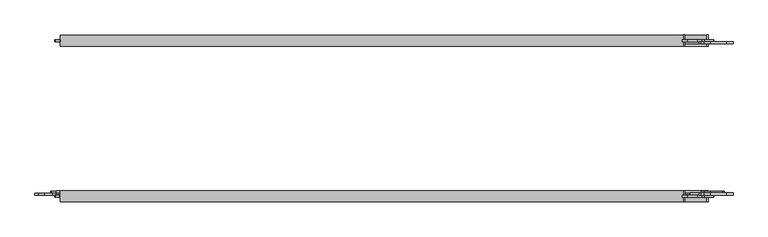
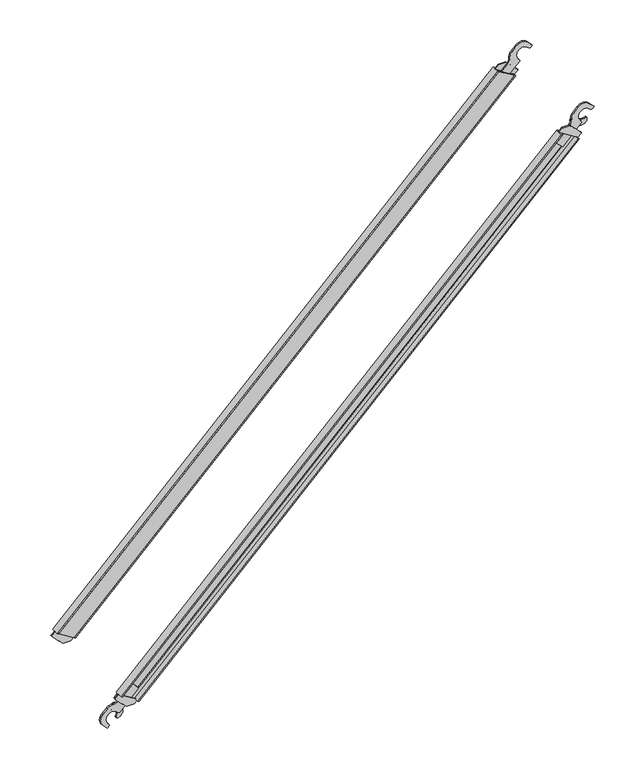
"""IFC4 building model written with IfcOpenShell, lengths in millimetres: proxy geometry, アルバトロスＡＫアルミ階段_子 : アルバトロスＡＫアルミ階段."""

from ifc_helpers import new_model, si_unit, frame, origin, place, context, project, spatial, polyline, circle_curve, outline, extrude, source, transform, mapped, element, save
from ifc_brep_helpers import plane_surface, cylinder_surface, revolved_surface, advanced_brep


def generic_models_7990cb1c(model_context):
    return source(origin(), model_context, "Body", "SolidModel", [
        extrude(outline(polyline([(82.2700822, 28.247086), (1760.6425974, 1706.6196213), (1763.4828407, 1701.9645269), (85.1103053, 23.5920213), (82.2700822, 28.247086)])), frame((0.0, -18.0, 0.0), z_axis=(0.0, 1.0, 0.0), x_axis=(0.0, 0.0, 1.0)), (0.0, 0.0, 1.0), 30.0),
        extrude(outline(polyline([(1721.6830539, 1770.4734313), (1724.5232969, 1765.8183373), (46.1507972, 87.4458176), (43.3105555, 92.1009128), (1721.6830539, 1770.4734313)])), frame((0.0, -18.0, 0.0), z_axis=(0.0, 1.0, 0.0), x_axis=(0.0, 0.0, 1.0)), (0.0, 0.0, 1.0), 30.0),
        advanced_brep(
        [(34.4845952, 414.0, 46.5601285), (40.1961249, 414.0, 40.8485773), (51.5704728, 414.0, 29.4741985), (52.989517, 414.0, 28.8956453), (80.524464, 414.0, 28.8956212), (81.2315796, 414.0, 29.1885464), (94.1210587, 414.0, 42.0779915), (21.571875, 414.0, 86.3428696), (9.5510488, 414.0, 74.3220282), (9.5510812, 414.0, 71.4936206), (34.4845952, 419.0, 46.5601285), (9.5510507, 419.0, 71.4935879), (9.5510811, 419.0, 74.3220478), (21.571875, 419.0, 86.3428696), (94.1210587, 419.0, 42.0779915), (81.2315959, 419.0, 29.1885312), (80.5244728, 419.0, 28.8956532), (52.989517, 419.0, 28.8956453), (51.5704728, 419.0, 29.4741985), (40.1961249, 419.0, 40.8485773)],
        [
            (0, 1, circle_curve(frame((45.3306552, 414.0, 51.694618), z_axis=(0.0, -1.0, 0.0), x_axis=(-0.7071067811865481, 0.0, -0.7071067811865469)), 12.0)),
            (1, 2),
            (2, 3, circle_curve(frame((52.9774527, 414.0, 30.8956089), z_axis=(0.0, -1.0, 0.0), x_axis=(-0.7071067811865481, 0.0, -0.7071067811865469)), 2.0)),
            (3, 4),
            (4, 5, circle_curve(frame((80.5244728, 414.0, 29.8956532), z_axis=(0.0, -1.0, 0.0), x_axis=(-0.7071067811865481, 0.0, -0.7071067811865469)), 1.0)),
            (5, 6),
            (6, 7),
            (7, 8),
            (8, 9, circle_curve(frame((10.9652947, 414.0, 72.9078342), z_axis=(0.0, -1.0, 0.0), x_axis=(-0.7071067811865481, 0.0, -0.7071067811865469)), 2.0)),
            (9, 0),
            (10, 11),
            (11, 12, circle_curve(frame((10.9652947, 419.0, 72.9078342), z_axis=(0.0, 1.0, 0.0), x_axis=(-0.7071067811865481, 0.0, -0.7071067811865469)), 2.0)),
            (12, 13),
            (13, 14),
            (14, 15),
            (15, 16, circle_curve(frame((80.5244728, 419.0, 29.8956532), z_axis=(0.0, 1.0, 0.0), x_axis=(-0.7071067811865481, 0.0, -0.7071067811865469)), 1.0)),
            (16, 17),
            (17, 18, circle_curve(frame((52.9774527, 419.0, 30.8956089), z_axis=(0.0, 1.0, 0.0), x_axis=(-0.7071067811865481, 0.0, -0.7071067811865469)), 2.0)),
            (18, 19),
            (19, 10, circle_curve(frame((45.3306552, 419.0, 51.694618), z_axis=(0.0, 1.0, 0.0), x_axis=(-0.7071067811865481, 0.0, -0.7071067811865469)), 12.0)),
            (0, 10),
            (19, 1),
            (18, 2),
            (17, 3),
            (16, 4),
            (15, 5),
            (14, 6),
            (13, 7),
            (12, 8),
            (11, 9),
        ],
        [
            plane_surface(frame((36.8453738, 414.0, 43.2093366), z_axis=(0.0, -1.0, 0.0), x_axis=(0.7071067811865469, 0.0, -0.7071067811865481))),
            plane_surface(frame((36.8453738, 419.0, 43.2093366), z_axis=(0.0, 1.0, 0.0), x_axis=(-0.7071067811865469, 0.0, 0.7071067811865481))),
            cylinder_surface(frame((45.3306552, 419.0, 51.694618), z_axis=(0.0, -1.0, 0.0), x_axis=(-0.7071067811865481, 0.0, -0.7071067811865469)), 12.0),
            plane_surface(frame((40.1961249, 414.0, 40.8485773), z_axis=(-0.7071077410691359, 0.0, -0.7071058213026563), x_axis=(0.0, 1.0, 0.0))),
            cylinder_surface(frame((52.9774527, 419.0, 30.8956089), z_axis=(0.0, -1.0, 0.0), x_axis=(-0.7071067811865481, 0.0, -0.7071067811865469)), 2.0),
            plane_surface(frame((52.989517, 414.0, 28.8956453), z_axis=(-8.747513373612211e-07, 0.0, -0.9999999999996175), x_axis=(0.0, 1.0, 0.0))),
            cylinder_surface(frame((80.5244728, 419.0, 29.8956532), z_axis=(0.0, -1.0, 0.0), x_axis=(-0.7071067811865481, 0.0, -0.7071067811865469)), 1.0),
            plane_surface(frame((81.2315959, 414.0, 29.1885312), z_axis=(0.7071067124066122, 0.0, -0.7071068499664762), x_axis=(0.0, 1.0, 0.0))),
            plane_surface(frame((94.1210587, 414.0, 42.0779915), z_axis=(0.5208438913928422, 0.0, 0.8536519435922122), x_axis=(0.0, 1.0, 0.0))),
            plane_surface(frame((21.571875, 414.0, 86.3428696), z_axis=(-0.7071072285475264, 0.0, 0.7071063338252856), x_axis=(0.0, 1.0, 0.0))),
            cylinder_surface(frame((10.9652947, 419.0, 72.9078342), z_axis=(0.0, -1.0, 0.0), x_axis=(-0.7071067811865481, 0.0, -0.7071067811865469)), 2.0),
            plane_surface(frame((9.5510507, 414.0, 71.4935879), z_axis=(-0.7071055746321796, 0.0, -0.7071079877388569), x_axis=(0.0, 1.0, 0.0))),
        ],
        [
            (0, [[1, 2, 3, 4, 5, 6, 7, 8, 9, 10]]),
            (1, [[11, 12, 13, 14, 15, 16, 17, 18, 19, 20]]),
            (2, [[-1, 21, -20, 22]]),
            (3, [[-2, -22, -19, 23]]),
            (4, [[-3, -23, -18, 24]]),
            (5, [[-4, -24, -17, 25]]),
            (6, [[-5, -25, -16, 26]]),
            (7, [[-6, -26, -15, 27]]),
            (8, [[-7, -27, -14, 28]]),
            (9, [[-8, -28, -13, 29]]),
            (10, [[-9, -29, -12, 30]]),
            (11, [[-10, -30, -11, -21]]),
        ],
    ),
        advanced_brep(
        [(1713.1267351, -5.0, 1777.897706), (1699.9444122, -5.0, 1764.7153865), (1772.493546, -5.0, 1720.4505081), (1784.5215869, -5.0, 1732.4785138), (1784.5143902, -5.0, 1735.2997074), (1759.5807363, -5.0, 1760.233389), (1753.8693906, -5.0, 1765.9447057), (1741.9163432, -5.0, 1777.8977335), (1713.1267351, 0.0, 1777.897706), (1741.9163432, 0.0, 1777.8977335), (1753.8693906, 0.0, 1765.9447057), (1759.5807363, 0.0, 1760.233389), (1784.5143706, 0.0, 1735.2997397), (1784.5215869, 0.0, 1732.4785138), (1772.493546, 0.0, 1720.4505081), (1699.9444122, 0.0, 1764.7153865)],
        [
            (0, 1),
            (1, 2),
            (2, 3),
            (3, 4, circle_curve(frame((1783.1001766, -5.0, 1733.8854938), z_axis=(0.0, -1.0, 0.0), x_axis=(-0.7071067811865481, 0.0, -0.7071067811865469)), 2.0)),
            (4, 5),
            (5, 6, circle_curve(frame((1748.7347661, -5.0, 1755.0987097), z_axis=(0.0, -1.0, 0.0), x_axis=(-0.7071067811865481, 0.0, -0.7071067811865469)), 12.0)),
            (6, 7),
            (7, 0),
            (8, 9),
            (9, 10),
            (10, 11, circle_curve(frame((1748.7347661, 0.0, 1755.0987097), z_axis=(0.0, 1.0, 0.0), x_axis=(-0.7071067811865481, 0.0, -0.7071067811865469)), 12.0)),
            (11, 12),
            (12, 13, circle_curve(frame((1783.1001766, 0.0, 1733.8854938), z_axis=(0.0, 1.0, 0.0), x_axis=(-0.7071067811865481, 0.0, -0.7071067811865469)), 2.0)),
            (13, 14),
            (14, 15),
            (15, 8),
            (0, 8),
            (15, 1),
            (14, 2),
            (13, 3),
            (12, 4),
            (11, 5),
            (10, 6),
            (9, 7),
        ],
        [
            plane_surface(frame((1699.9444122, -5.0, 1764.7153865), z_axis=(0.0, -1.0, 0.0), x_axis=(-0.7071068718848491, 0.0, -0.7071066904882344))),
            plane_surface(frame((1699.9444122, 0.0, 1764.7153865), z_axis=(0.0, 1.0, 0.0), x_axis=(0.7071068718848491, 0.0, 0.7071066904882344))),
            plane_surface(frame((1713.1267351, -5.0, 1777.897706), z_axis=(-0.7071066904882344, 0.0, 0.7071068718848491), x_axis=(0.0, 1.0, 0.0))),
            plane_surface(frame((1699.9444122, -5.0, 1764.7153865), z_axis=(-0.5208441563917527, 0.0, -0.8536517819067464), x_axis=(0.0, 1.0, 0.0))),
            plane_surface(frame((1772.493546, -5.0, 1720.4505081), z_axis=(0.7071057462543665, 0.0, -0.707107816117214), x_axis=(0.0, 1.0, 0.0))),
            cylinder_surface(frame((1783.1001766, 0.0, 1733.8854938), z_axis=(0.0, -1.0, 0.0), x_axis=(-0.7071067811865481, 0.0, -0.7071067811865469)), 2.0),
            plane_surface(frame((1784.5143706, -5.0, 1735.2997397), z_axis=(0.7071069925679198, 0.0, 0.7071065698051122), x_axis=(0.0, 1.0, 0.0))),
            cylinder_surface(frame((1748.7347661, 0.0, 1755.0987097), z_axis=(0.0, -1.0, 0.0), x_axis=(-0.7071067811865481, 0.0, -0.7071067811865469)), 12.0),
            plane_surface(frame((1753.8693906, -5.0, 1765.9447057), z_axis=(0.7071061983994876, 0.0, 0.7071073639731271), x_axis=(0.0, 1.0, 0.0))),
            plane_surface(frame((1741.9163432, -5.0, 1777.8977335), z_axis=(-9.54773230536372e-07, 0.0, 0.9999999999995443), x_axis=(0.0, 1.0, 0.0))),
        ],
        [
            (0, [[1, 2, 3, 4, 5, 6, 7, 8]]),
            (1, [[9, 10, 11, 12, 13, 14, 15, 16]]),
            (2, [[-1, 17, -16, 18]]),
            (3, [[-2, -18, -15, 19]]),
            (4, [[-3, -19, -14, 20]]),
            (5, [[-4, -20, -13, 21]]),
            (6, [[-5, -21, -12, 22]]),
            (7, [[-6, -22, -11, 23]]),
            (8, [[-7, -23, -10, 24]]),
            (9, [[-8, -24, -9, -17]]),
        ],
    ),
        advanced_brep(
        [(1750.9545809, 0.0, 1796.2094037), (1745.5605026, 0.0, 1777.3112904), (1705.9547865, 0.0, 1737.0674823), (1695.3482088, 0.0, 1719.3898115), (1716.561399, 0.0, 1698.1766472), (1769.0994514, 0.0, 1750.7146682), (1788.8268034, 0.0, 1770.4420364), (1783.0294616, 0.0, 1783.0294232), (1783.0384091, 0.0, 1814.1511009), (1785.8578878, 0.0, 1816.9705832), (1816.9705935, 0.0, 1816.9705455), (1829.5580375, 0.0, 1811.1732307), (1836.7695627, 0.0, 1818.3847599), (1819.0918871, 0.0, 1836.0624633), (1776.6588256, 0.0, 1836.0557799), (1759.6949013, 0.0, 1819.0918845), (1750.9546179, 6.0, 1796.2094179), (1759.6949383, 6.0, 1819.091874), (1776.6588256, 6.0, 1836.0557799), (1819.0918766, 6.0, 1836.0624263), (1836.7695627, 6.0, 1818.3847599), (1829.5580375, 6.0, 1811.1732307), (1816.9705884, 6.0, 1816.9705772), (1785.8578952, 6.0, 1816.9705454), (1783.0384091, 6.0, 1814.1511009), (1783.0294565, 6.0, 1783.0294549), (1788.8268034, 6.0, 1770.4420364), (1769.099449, 6.0, 1750.7146524), (1716.561399, 6.0, 1698.1766472), (1695.3482088, 6.0, 1719.3898115), (1705.9547865, 6.0, 1737.0674823), (1745.5605026, 6.0, 1777.3112904)],
        [
            (0, 1, circle_curve(frame((1721.001057, 0.0, 1794.5401509), z_axis=(0.0, 1.0, 0.0), x_axis=(-0.7071067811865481, 0.0, -0.7071067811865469)), 30.0)),
            (1, 2),
            (2, 3),
            (3, 4),
            (4, 5),
            (5, 6),
            (6, 7, circle_curve(frame((1768.887326, 0.0, 1768.8872875), z_axis=(0.0, -1.0, 0.0), x_axis=(-0.7071067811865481, 0.0, -0.7071067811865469)), 20.0)),
            (7, 8, circle_curve(frame((1798.5858056, 0.0, 1798.5858041), z_axis=(0.0, 1.0, 0.0), x_axis=(-0.7071067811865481, 0.0, -0.7071067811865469)), 22.0)),
            (8, 9),
            (9, 10, circle_curve(frame((1801.4142444, 0.0, 1801.4141963), z_axis=(0.0, 1.0, 0.0), x_axis=(-0.7071067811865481, 0.0, -0.7071067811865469)), 22.0)),
            (10, 11, circle_curve(frame((1831.1127239, 0.0, 1831.1127129), z_axis=(0.0, -1.0, 0.0), x_axis=(-0.7071067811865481, 0.0, -0.7071067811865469)), 20.0)),
            (11, 12),
            (12, 13),
            (13, 14, circle_curve(frame((1797.8786732, 0.0, 1814.8492227), z_axis=(0.0, -1.0, 0.0), x_axis=(-0.7071067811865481, 0.0, -0.7071067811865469)), 30.0)),
            (14, 15),
            (15, 0, circle_curve(frame((1780.9081418, 0.0, 1797.8786706), z_axis=(0.0, -1.0, 0.0), x_axis=(-0.7071067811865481, 0.0, -0.7071067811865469)), 30.0)),
            (16, 17, circle_curve(frame((1780.9081418, 6.0, 1797.8786706), z_axis=(0.0, 1.0, 0.0), x_axis=(-0.7071067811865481, 0.0, -0.7071067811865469)), 30.0)),
            (17, 18),
            (18, 19, circle_curve(frame((1797.8786732, 6.0, 1814.8492227), z_axis=(0.0, 1.0, 0.0), x_axis=(-0.7071067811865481, 0.0, -0.7071067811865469)), 30.0)),
            (19, 20),
            (20, 21),
            (21, 22, circle_curve(frame((1831.1127239, 6.0, 1831.1127129), z_axis=(0.0, 1.0, 0.0), x_axis=(-0.7071067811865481, 0.0, -0.7071067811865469)), 20.0)),
            (22, 23, circle_curve(frame((1801.4142444, 6.0, 1801.4141963), z_axis=(0.0, -1.0, 0.0), x_axis=(-0.7071067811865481, 0.0, -0.7071067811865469)), 22.0)),
            (23, 24),
            (24, 25, circle_curve(frame((1798.5858056, 6.0, 1798.5858041), z_axis=(0.0, -1.0, 0.0), x_axis=(-0.7071067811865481, 0.0, -0.7071067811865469)), 22.0)),
            (25, 26, circle_curve(frame((1768.887326, 6.0, 1768.8872875), z_axis=(0.0, 1.0, 0.0), x_axis=(-0.7071067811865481, 0.0, -0.7071067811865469)), 20.0)),
            (26, 27),
            (27, 28),
            (28, 29),
            (29, 30),
            (30, 31),
            (31, 16, circle_curve(frame((1721.001057, 6.0, 1794.5401509), z_axis=(0.0, -1.0, 0.0), x_axis=(-0.7071067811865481, 0.0, -0.7071067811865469)), 30.0)),
            (0, 16),
            (31, 1),
            (30, 2),
            (29, 3),
            (28, 4),
            (27, 5),
            (26, 6),
            (25, 7),
            (24, 8),
            (23, 9),
            (22, 10),
            (21, 11),
            (20, 12),
            (19, 13),
            (18, 14),
            (17, 15),
        ],
        [
            plane_surface(frame((1699.7878535, 0.0, 1773.3269475), z_axis=(0.0, -1.0, 0.0), x_axis=(-0.7071067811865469, 0.0, 0.7071067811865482))),
            plane_surface(frame((1699.7878535, 6.0, 1773.3269475), z_axis=(0.0, 1.0, 0.0), x_axis=(0.7071067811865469, 0.0, -0.7071067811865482))),
            revolved_surface(polyline([(1699.7878535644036, 6.0, 1773.3269474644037), (1699.7878535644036, 0.0, 1773.3269474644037)]), (1721.001057, 6.0, 1794.5401509), (0.0, 1.0, 0.0)),
            plane_surface(frame((1745.5605026, 0.0, 1777.3112904), z_axis=(-0.7127346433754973, 0.0, 0.7014337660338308), x_axis=(0.0, 1.0, 0.0))),
            plane_surface(frame((1705.9547865, 0.0, 1737.0674823), z_axis=(-0.8574934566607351, 0.0, 0.5144948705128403), x_axis=(0.0, 1.0, 0.0))),
            plane_surface(frame((1695.3482088, 0.0, 1719.3898115), z_axis=(-0.7071063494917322, 0.0, -0.7071072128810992), x_axis=(0.0, 1.0, 0.0))),
            plane_surface(frame((1716.561399, 0.0, 1698.1766472), z_axis=(0.7071065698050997, 0.0, -0.7071069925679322), x_axis=(0.0, 1.0, 0.0))),
            plane_surface(frame((1769.099449, 0.0, 1750.7146524), z_axis=(0.7071073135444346, 0.0, -0.7071062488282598), x_axis=(0.0, 1.0, 0.0))),
            cylinder_surface(frame((1768.887326, 6.0, 1768.8872875), z_axis=(0.0, -1.0, 0.0), x_axis=(-0.7071067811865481, 0.0, -0.7071067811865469)), 20.0),
            revolved_surface(polyline([(1783.0294564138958, 6.0, 1783.029454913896), (1783.0294564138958, 0.0, 1783.029454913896)]), (1798.5858056, 6.0, 1798.5858041), (0.0, 1.0, 0.0)),
            plane_surface(frame((1783.0384091, 0.0, 1814.1511009), z_axis=(0.7071072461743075, 0.0, -0.7071063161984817), x_axis=(0.0, 1.0, 0.0))),
            revolved_surface(polyline([(1785.8578952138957, 6.0, 1785.857847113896), (1785.8578952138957, 0.0, 1785.857847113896)]), (1801.4142444, 6.0, 1801.4141963), (0.0, 1.0, 0.0)),
            cylinder_surface(frame((1831.1127239, 6.0, 1831.1127129), z_axis=(0.0, -1.0, 0.0), x_axis=(-0.7071067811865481, 0.0, -0.7071067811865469)), 20.0),
            plane_surface(frame((1829.5580375, 0.0, 1811.1732307), z_axis=(0.7071069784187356, 0.0, -0.7071065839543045), x_axis=(0.0, 1.0, 0.0))),
            plane_surface(frame((1836.7695627, 0.0, 1818.3847599), z_axis=(0.7071073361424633, 0.0, 0.7071062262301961), x_axis=(0.0, 1.0, 0.0))),
            cylinder_surface(frame((1797.8786732, 6.0, 1814.8492227), z_axis=(0.0, -1.0, 0.0), x_axis=(-0.7071067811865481, 0.0, -0.7071067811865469)), 30.0),
            plane_surface(frame((1776.6588256, 0.0, 1836.0557799), z_axis=(-0.7071061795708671, 0.0, 0.7071073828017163), x_axis=(0.0, 1.0, 0.0))),
            cylinder_surface(frame((1780.9081418, 6.0, 1797.8786706), z_axis=(0.0, -1.0, 0.0), x_axis=(-0.7071067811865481, 0.0, -0.7071067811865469)), 30.0),
        ],
        [
            (0, [[1, 2, 3, 4, 5, 6, 7, 8, 9, 10, 11, 12, 13, 14, 15, 16]]),
            (1, [[17, 18, 19, 20, 21, 22, 23, 24, 25, 26, 27, 28, 29, 30, 31, 32]]),
            (2, [[-1, 33, -32, 34]]),
            (3, [[-2, -34, -31, 35]]),
            (4, [[-3, -35, -30, 36]]),
            (5, [[-4, -36, -29, 37]]),
            (6, [[-5, -37, -28, 38]]),
            (7, [[-6, -38, -27, 39]]),
            (8, [[-7, -39, -26, 40]]),
            (9, [[-8, -40, -25, 41]]),
            (10, [[-9, -41, -24, 42]]),
            (11, [[-10, -42, -23, 43]]),
            (12, [[-11, -43, -22, 44]]),
            (13, [[-12, -44, -21, 45]]),
            (14, [[-13, -45, -20, 46]]),
            (15, [[-14, -46, -19, 47]]),
            (16, [[-15, -47, -18, 48]]),
            (17, [[-16, -48, -17, -33]]),
        ],
    ),
        extrude(outline(polyline([(31.1634665, 72.4584867), (1724.5232969, 1765.8183373), (1760.6425974, 1706.6196213), (67.2827687, 13.2597723), (31.1634665, 72.4584867)])), frame((0.0, 7.0, 0.0), z_axis=(0.0, 1.0, 0.0), x_axis=(0.0, 0.0, 1.0)), (0.0, 0.0, 1.0), 5.0),
        extrude(outline(polyline([(1760.6425974, 1706.6196213), (67.2827687, 13.2597723), (58.7620437, 27.2250574), (1752.1218688, 1720.5849027), (1760.6425974, 1706.6196213)])), frame((0.0, 2.0, 0.0), z_axis=(0.0, 1.0, 0.0), x_axis=(0.0, 0.0, 1.0)), (0.0, 0.0, 1.0), 5.0),
        extrude(outline(polyline([(1733.0440235, 1751.8530531), (39.684193, 58.4932023), (31.1634636, 72.4584839), (1724.5232945, 1765.818335), (1733.0440235, 1751.8530531)])), frame((0.0, 2.0, 0.0), z_axis=(0.0, 1.0, 0.0), x_axis=(0.0, 0.0, 1.0)), (0.0, 0.0, 1.0), 5.0),
        advanced_brep(
        [(1774.9818173, 6.0, 1797.6674516), (1758.864664, 6.0, 1799.4625709), (1753.1578226, 6.0, 1778.8369525), (1804.1742238, 6.0, 1759.4206269), (1809.9943774, 6.0, 1763.9780417), (1812.379301, 6.0, 1779.4010018), (1808.0952079, 6.0, 1780.840496), (1774.9818173, 11.0, 1797.6674516), (1808.0952079, 11.0, 1780.840496), (1812.3792894, 11.0, 1779.400997), (1809.9943774, 11.0, 1763.9780417), (1804.1742238, 11.0, 1759.4206269), (1753.1578226, 11.0, 1778.8369525), (1758.864664, 11.0, 1799.4625709)],
        [
            (0, 1, circle_curve(frame((1766.2753798, 6.0, 1792.7483107), z_axis=(0.0, -1.0, 0.0), x_axis=(-0.7071067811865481, 0.0, -0.7071067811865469)), 10.0)),
            (1, 2, circle_curve(frame((1766.1426712, 6.0, 1786.3465269), z_axis=(0.0, -1.0, 0.0), x_axis=(-0.7071067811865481, 0.0, -0.7071067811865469)), 15.0)),
            (2, 3, circle_curve(frame((1787.0161257, 6.0, 1791.0686864), z_axis=(0.0, -1.0, 0.0), x_axis=(-0.7071067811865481, 0.0, -0.7071067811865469)), 36.0)),
            (3, 4, circle_curve(frame((1796.2234311, 6.0, 1775.5694627), z_axis=(0.0, -1.0, 0.0), x_axis=(-0.7071067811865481, 0.0, -0.7071067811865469)), 18.0)),
            (4, 5, circle_curve(frame((1798.5267226, 6.0, 1773.6472141), z_axis=(0.0, -1.0, 0.0), x_axis=(-0.7071067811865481, 0.0, -0.7071067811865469)), 15.0)),
            (5, 6, circle_curve(frame((1809.6087537, 6.0, 1778.2502877), z_axis=(0.0, -1.0, 0.0), x_axis=(-0.7071067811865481, 0.0, -0.7071067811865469)), 3.0)),
            (6, 0, circle_curve(frame((1796.8813128, 6.0, 1799.7679511), z_axis=(0.0, 1.0, 0.0), x_axis=(-0.7071067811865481, 0.0, -0.7071067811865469)), 22.0)),
            (7, 8, circle_curve(frame((1796.8813128, 11.0, 1799.7679511), z_axis=(0.0, -1.0, 0.0), x_axis=(-0.7071067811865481, 0.0, -0.7071067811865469)), 22.0)),
            (8, 9, circle_curve(frame((1809.6087537, 11.0, 1778.2502877), z_axis=(0.0, 1.0, 0.0), x_axis=(-0.7071067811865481, 0.0, -0.7071067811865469)), 3.0)),
            (9, 10, circle_curve(frame((1798.5267226, 11.0, 1773.6472141), z_axis=(0.0, 1.0, 0.0), x_axis=(-0.7071067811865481, 0.0, -0.7071067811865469)), 15.0)),
            (10, 11, circle_curve(frame((1796.2234311, 11.0, 1775.5694627), z_axis=(0.0, 1.0, 0.0), x_axis=(-0.7071067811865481, 0.0, -0.7071067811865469)), 18.0)),
            (11, 12, circle_curve(frame((1787.0161257, 11.0, 1791.0686864), z_axis=(0.0, 1.0, 0.0), x_axis=(-0.7071067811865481, 0.0, -0.7071067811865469)), 36.0)),
            (12, 13, circle_curve(frame((1766.1426712, 11.0, 1786.3465269), z_axis=(0.0, 1.0, 0.0), x_axis=(-0.7071067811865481, 0.0, -0.7071067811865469)), 15.0)),
            (13, 7, circle_curve(frame((1766.2753798, 11.0, 1792.7483107), z_axis=(0.0, 1.0, 0.0), x_axis=(-0.7071067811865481, 0.0, -0.7071067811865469)), 10.0)),
            (6, 8),
            (7, 0),
            (5, 9),
            (4, 10),
            (3, 11),
            (2, 12),
            (1, 13),
        ],
        [
            plane_surface(frame((1759.204312, 6.0, 1785.6772429), z_axis=(0.0, -1.0, 0.0), x_axis=(0.7071067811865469, 0.0, -0.7071067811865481))),
            plane_surface(frame((1759.204312, 11.0, 1785.6772429), z_axis=(0.0, 1.0, 0.0), x_axis=(-0.7071067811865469, 0.0, 0.7071067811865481))),
            revolved_surface(polyline([(1781.3249636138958, 11.0, 1784.211601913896), (1781.3249636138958, 6.0, 1784.211601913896)]), (1796.8813128, 11.0, 1799.7679511), (0.0, 1.0, 0.0)),
            cylinder_surface(frame((1809.6087537, 11.0, 1778.2502877), z_axis=(0.0, -1.0, 0.0), x_axis=(-0.7071067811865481, 0.0, -0.7071067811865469)), 3.0),
            cylinder_surface(frame((1798.5267226, 11.0, 1773.6472141), z_axis=(0.0, -1.0, 0.0), x_axis=(-0.7071067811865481, 0.0, -0.7071067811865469)), 15.0),
            cylinder_surface(frame((1796.2234311, 11.0, 1775.5694627), z_axis=(0.0, -1.0, 0.0), x_axis=(-0.7071067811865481, 0.0, -0.7071067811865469)), 18.0),
            cylinder_surface(frame((1787.0161257, 11.0, 1791.0686864), z_axis=(0.0, -1.0, 0.0), x_axis=(-0.7071067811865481, 0.0, -0.7071067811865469)), 36.0),
            cylinder_surface(frame((1766.1426712, 11.0, 1786.3465269), z_axis=(0.0, -1.0, 0.0), x_axis=(-0.7071067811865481, 0.0, -0.7071067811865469)), 15.0),
            cylinder_surface(frame((1766.2753798, 11.0, 1792.7483107), z_axis=(0.0, -1.0, 0.0), x_axis=(-0.7071067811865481, 0.0, -0.7071067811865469)), 10.0),
        ],
        [
            (0, [[1, 2, 3, 4, 5, 6, 7]]),
            (1, [[8, 9, 10, 11, 12, 13, 14]]),
            (2, [[-7, 15, -8, 16]]),
            (3, [[-6, 17, -9, -15]]),
            (4, [[-5, 18, -10, -17]]),
            (5, [[-4, 19, -11, -18]]),
            (6, [[-3, 20, -12, -19]]),
            (7, [[-2, 21, -13, -20]]),
            (8, [[-1, -16, -14, -21]]),
        ],
    ),
        advanced_brep(
        [(3.790621, 0.0, 49.0452875), (-19.0918243, 0.0, 40.3049389), (-36.0557094, 0.0, 23.3410307), (-36.0623035, 0.0, -19.0920203), (-18.3846153, 0.0, -36.7696846), (-11.173095, 0.0, -29.5581506), (-16.970457, 0.0, -16.9707086), (-16.9704635, 0.0, 14.1419846), (-14.1510225, 0.0, 16.9614742), (16.9706235, 0.0, 16.9704651), (29.5580491, 0.0, 11.1731338), (49.2854088, 0.0, 30.9005124), (101.8233493, 0.0, 83.4386272), (80.6101589, 0.0, 104.6517912), (62.9325012, 0.0, 94.0451918), (22.6887418, 0.0, 54.4394261), (3.7906352, 6.0, 49.0453245), (22.6887418, 6.0, 54.4394261), (62.9325012, 6.0, 94.0451918), (80.6101589, 6.0, 104.6517912), (101.8233493, 6.0, 83.4386272), (49.285393, 6.0, 30.9005101), (29.5580491, 6.0, 11.1731338), (16.9706552, 6.0, 16.97046), (-14.1510225, 6.0, 16.9614742), (-16.9705014, 6.0, 14.141992), (-16.9704253, 6.0, -16.9707137), (-11.173095, 6.0, -29.5581506), (-18.3846153, 6.0, -36.7696846), (-36.0623405, 6.0, -19.0920308), (-36.0557094, 6.0, 23.3410307), (-19.0918348, 6.0, 40.3049759)],
        [
            (0, 1, circle_curve(frame((2.1214051, 0.0, 19.0917615), z_axis=(0.0, -1.0, 0.0), x_axis=(-0.7071067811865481, 0.0, -0.7071067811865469)), 30.0)),
            (1, 2),
            (2, 3, circle_curve(frame((-14.8491261, 0.0, 2.1212092), z_axis=(0.0, -1.0, 0.0), x_axis=(-0.7071067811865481, 0.0, -0.7071067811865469)), 30.0)),
            (3, 4),
            (4, 5),
            (5, 6, circle_curve(frame((-31.1125752, 0.0, -31.1128616), z_axis=(0.0, -1.0, 0.0), x_axis=(-0.7071067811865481, 0.0, -0.7071067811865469)), 20.0)),
            (6, 7, circle_curve(frame((-1.4140952, 0.0, -1.4143454), z_axis=(0.0, 1.0, 0.0), x_axis=(-0.7071067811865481, 0.0, -0.7071067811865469)), 22.0)),
            (7, 8),
            (8, 9, circle_curve(frame((1.4142934, 0.0, 1.4140969), z_axis=(0.0, 1.0, 0.0), x_axis=(-0.7071067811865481, 0.0, -0.7071067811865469)), 22.0)),
            (9, 10, circle_curve(frame((31.1127734, 0.0, 31.112613), z_axis=(0.0, -1.0, 0.0), x_axis=(-0.7071067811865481, 0.0, -0.7071067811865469)), 20.0)),
            (10, 11),
            (11, 12),
            (12, 13),
            (13, 14),
            (14, 15),
            (15, 0, circle_curve(frame((5.4598511, 0.0, 78.9988505), z_axis=(0.0, 1.0, 0.0), x_axis=(-0.7071067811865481, 0.0, -0.7071067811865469)), 30.0)),
            (16, 17, circle_curve(frame((5.4598511, 6.0, 78.9988505), z_axis=(0.0, -1.0, 0.0), x_axis=(-0.7071067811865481, 0.0, -0.7071067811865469)), 30.0)),
            (17, 18),
            (18, 19),
            (19, 20),
            (20, 21),
            (21, 22),
            (22, 23, circle_curve(frame((31.1127734, 6.0, 31.112613), z_axis=(0.0, 1.0, 0.0), x_axis=(-0.7071067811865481, 0.0, -0.7071067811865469)), 20.0)),
            (23, 24, circle_curve(frame((1.4142934, 6.0, 1.4140969), z_axis=(0.0, -1.0, 0.0), x_axis=(-0.7071067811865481, 0.0, -0.7071067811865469)), 22.0)),
            (24, 25),
            (25, 26, circle_curve(frame((-1.4140952, 6.0, -1.4143454), z_axis=(0.0, -1.0, 0.0), x_axis=(-0.7071067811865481, 0.0, -0.7071067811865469)), 22.0)),
            (26, 27, circle_curve(frame((-31.1125752, 6.0, -31.1128616), z_axis=(0.0, 1.0, 0.0), x_axis=(-0.7071067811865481, 0.0, -0.7071067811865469)), 20.0)),
            (27, 28),
            (28, 29),
            (29, 30, circle_curve(frame((-14.8491261, 6.0, 2.1212092), z_axis=(0.0, 1.0, 0.0), x_axis=(-0.7071067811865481, 0.0, -0.7071067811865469)), 30.0)),
            (30, 31),
            (31, 16, circle_curve(frame((2.1214051, 6.0, 19.0917615), z_axis=(0.0, 1.0, 0.0), x_axis=(-0.7071067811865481, 0.0, -0.7071067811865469)), 30.0)),
            (15, 17),
            (16, 0),
            (14, 18),
            (13, 19),
            (12, 20),
            (11, 21),
            (10, 22),
            (9, 23),
            (8, 24),
            (7, 25),
            (6, 26),
            (5, 27),
            (4, 28),
            (3, 29),
            (2, 30),
            (1, 31),
        ],
        [
            plane_surface(frame((-19.0917983, 0.0, -2.1214419), z_axis=(0.0, -1.0, 0.0), x_axis=(0.7071067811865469, 0.0, -0.7071067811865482))),
            plane_surface(frame((-19.0917983, 6.0, -2.1214419), z_axis=(0.0, 1.0, 0.0), x_axis=(-0.7071067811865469, 0.0, 0.7071067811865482))),
            revolved_surface(polyline([(-15.753352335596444, 6.0, 57.78564706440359), (-15.753352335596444, 0.0, 57.78564706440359)]), (5.4598511, 6.0, 78.9988505), (0.0, 1.0, 0.0)),
            plane_surface(frame((62.9325012, 0.0, 94.0451918), z_axis=(-0.7014346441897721, 0.0, 0.7127337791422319), x_axis=(0.0, 1.0, 0.0))),
            plane_surface(frame((80.6101589, 0.0, 104.6517912), z_axis=(-0.5144959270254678, 0.0, 0.8574928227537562), x_axis=(0.0, 1.0, 0.0))),
            plane_surface(frame((101.8233493, 0.0, 83.4386272), z_axis=(0.7071063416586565, 0.0, 0.7071072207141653), x_axis=(0.0, 1.0, 0.0))),
            plane_surface(frame((49.285393, 0.0, 30.9005101), z_axis=(0.7071078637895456, 0.0, -0.7071056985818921), x_axis=(0.0, 1.0, 0.0))),
            plane_surface(frame((29.5580491, 0.0, 11.1731338), z_axis=(0.7071071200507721, 0.0, -0.7071064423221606), x_axis=(0.0, 1.0, 0.0))),
            cylinder_surface(frame((31.1127734, 6.0, 31.112613), z_axis=(0.0, -1.0, 0.0), x_axis=(-0.7071067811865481, 0.0, -0.7071067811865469)), 20.0),
            revolved_surface(polyline([(-14.14205578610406, 6.0, -14.142252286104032), (-14.14205578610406, 0.0, -14.142252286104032)]), (1.4142934, 6.0, 1.4140969), (0.0, 1.0, 0.0)),
            plane_surface(frame((-16.9705014, 0.0, 14.141992), z_axis=(0.7071071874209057, 0.0, -0.707106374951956), x_axis=(0.0, 1.0, 0.0))),
            revolved_surface(polyline([(-16.97044438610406, 6.0, -16.97069458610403), (-16.97044438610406, 0.0, -16.97069458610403)]), (-1.4140952, 6.0, -1.4143454), (0.0, 1.0, 0.0)),
            cylinder_surface(frame((-31.1125752, 6.0, -31.1128616), z_axis=(0.0, -1.0, 0.0), x_axis=(-0.7071067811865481, 0.0, -0.7071067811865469)), 20.0),
            plane_surface(frame((-18.3846153, 0.0, -36.7696846), z_axis=(0.707107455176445, 0.0, -0.7071061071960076), x_axis=(0.0, 1.0, 0.0))),
            plane_surface(frame((-36.0623405, 0.0, -19.0920308), z_axis=(-0.7071053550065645, 0.0, -0.7071082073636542), x_axis=(0.0, 1.0, 0.0))),
            cylinder_surface(frame((-14.8491261, 6.0, 2.1212092), z_axis=(0.0, -1.0, 0.0), x_axis=(-0.7071067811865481, 0.0, -0.7071067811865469)), 30.0),
            plane_surface(frame((-19.0918348, 0.0, 40.3049759), z_axis=(-0.7071082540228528, 0.0, 0.7071053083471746), x_axis=(0.0, 1.0, 0.0))),
            cylinder_surface(frame((2.1214051, 6.0, 19.0917615), z_axis=(0.0, -1.0, 0.0), x_axis=(-0.7071067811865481, 0.0, -0.7071067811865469)), 30.0),
        ],
        [
            (0, [[1, 2, 3, 4, 5, 6, 7, 8, 9, 10, 11, 12, 13, 14, 15, 16]]),
            (1, [[17, 18, 19, 20, 21, 22, 23, 24, 25, 26, 27, 28, 29, 30, 31, 32]]),
            (2, [[-16, 33, -17, 34]]),
            (3, [[-15, 35, -18, -33]]),
            (4, [[-14, 36, -19, -35]]),
            (5, [[-13, 37, -20, -36]]),
            (6, [[-12, 38, -21, -37]]),
            (7, [[-11, 39, -22, -38]]),
            (8, [[-10, 40, -23, -39]]),
            (9, [[-9, 41, -24, -40]]),
            (10, [[-8, 42, -25, -41]]),
            (11, [[-7, 43, -26, -42]]),
            (12, [[-6, 44, -27, -43]]),
            (13, [[-5, 45, -28, -44]]),
            (14, [[-4, 46, -29, -45]]),
            (15, [[-3, 47, -30, -46]]),
            (16, [[-2, 48, -31, -47]]),
            (17, [[-1, -34, -32, -48]]),
        ],
    ),
        advanced_brep(
        [(2.3326169, 6.0, 25.0180863), (19.1596132, 6.0, -8.0952836), (20.5991176, 6.0, -12.3793633), (36.0220699, 6.0, -9.9944323), (40.5794775, 6.0, -4.1742731), (21.1630891, 6.0, 46.8421042), (0.5374777, 6.0, 41.1352374), (2.3326169, 11.0, 25.0180863), (0.5374777, 11.0, 41.1352374), (21.1630891, 11.0, 46.8421042), (40.5794775, 11.0, -4.1742731), (36.0220699, 11.0, -9.9944323), (20.5991127, 11.0, -12.3793749), (19.1596132, 11.0, -8.0952836)],
        [
            (0, 1, circle_curve(frame((0.2321444, 6.0, 3.1185882), z_axis=(0.0, 1.0, 0.0), x_axis=(-0.7071067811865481, 0.0, -0.7071067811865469)), 22.0)),
            (1, 2, circle_curve(frame((21.7498234, 6.0, -9.6088262), z_axis=(0.0, -1.0, 0.0), x_axis=(-0.7071067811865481, 0.0, -0.7071067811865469)), 3.0)),
            (2, 3, circle_curve(frame((26.3528834, 6.0, 1.4732105), z_axis=(0.0, -1.0, 0.0), x_axis=(-0.7071067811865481, 0.0, -0.7071067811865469)), 15.0)),
            (3, 4, circle_curve(frame((24.430632, 6.0, 3.7764997), z_axis=(0.0, -1.0, 0.0), x_axis=(-0.7071067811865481, 0.0, -0.7071067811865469)), 18.0)),
            (4, 5, circle_curve(frame((8.9313969, 6.0, 12.983786), z_axis=(0.0, -1.0, 0.0), x_axis=(-0.7071067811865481, 0.0, -0.7071067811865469)), 36.0)),
            (5, 6, circle_curve(frame((13.6535307, 6.0, 33.8572464), z_axis=(0.0, -1.0, 0.0), x_axis=(-0.7071067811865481, 0.0, -0.7071067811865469)), 15.0)),
            (6, 0, circle_curve(frame((7.251747, 6.0, 33.7245298), z_axis=(0.0, -1.0, 0.0), x_axis=(-0.7071067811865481, 0.0, -0.7071067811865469)), 10.0)),
            (7, 8, circle_curve(frame((7.251747, 11.0, 33.7245298), z_axis=(0.0, 1.0, 0.0), x_axis=(-0.7071067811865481, 0.0, -0.7071067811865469)), 10.0)),
            (8, 9, circle_curve(frame((13.6535307, 11.0, 33.8572464), z_axis=(0.0, 1.0, 0.0), x_axis=(-0.7071067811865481, 0.0, -0.7071067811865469)), 15.0)),
            (9, 10, circle_curve(frame((8.9313969, 11.0, 12.983786), z_axis=(0.0, 1.0, 0.0), x_axis=(-0.7071067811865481, 0.0, -0.7071067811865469)), 36.0)),
            (10, 11, circle_curve(frame((24.430632, 11.0, 3.7764997), z_axis=(0.0, 1.0, 0.0), x_axis=(-0.7071067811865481, 0.0, -0.7071067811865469)), 18.0)),
            (11, 12, circle_curve(frame((26.3528834, 11.0, 1.4732105), z_axis=(0.0, 1.0, 0.0), x_axis=(-0.7071067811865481, 0.0, -0.7071067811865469)), 15.0)),
            (12, 13, circle_curve(frame((21.7498234, 11.0, -9.6088262), z_axis=(0.0, 1.0, 0.0), x_axis=(-0.7071067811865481, 0.0, -0.7071067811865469)), 3.0)),
            (13, 7, circle_curve(frame((0.2321444, 11.0, 3.1185882), z_axis=(0.0, -1.0, 0.0), x_axis=(-0.7071067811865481, 0.0, -0.7071067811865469)), 22.0)),
            (0, 7),
            (13, 1),
            (12, 2),
            (11, 3),
            (10, 4),
            (9, 5),
            (8, 6),
        ],
        [
            plane_surface(frame((-15.3242048, 6.0, -12.4377609), z_axis=(0.0, -1.0, 0.0), x_axis=(-0.7071067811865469, 0.0, 0.7071067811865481))),
            plane_surface(frame((-15.3242048, 11.0, -12.4377609), z_axis=(0.0, 1.0, 0.0), x_axis=(0.7071067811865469, 0.0, -0.7071067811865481))),
            revolved_surface(polyline([(-15.32420478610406, 11.0, -12.437760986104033), (-15.32420478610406, 6.0, -12.437760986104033)]), (0.2321444, 11.0, 3.1185882), (0.0, 1.0, 0.0)),
            cylinder_surface(frame((21.7498234, 11.0, -9.6088262), z_axis=(0.0, -1.0, 0.0), x_axis=(-0.7071067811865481, 0.0, -0.7071067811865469)), 3.0),
            cylinder_surface(frame((26.3528834, 11.0, 1.4732105), z_axis=(0.0, -1.0, 0.0), x_axis=(-0.7071067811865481, 0.0, -0.7071067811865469)), 15.0),
            cylinder_surface(frame((24.430632, 11.0, 3.7764997), z_axis=(0.0, -1.0, 0.0), x_axis=(-0.7071067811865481, 0.0, -0.7071067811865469)), 18.0),
            cylinder_surface(frame((8.9313969, 11.0, 12.983786), z_axis=(0.0, -1.0, 0.0), x_axis=(-0.7071067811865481, 0.0, -0.7071067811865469)), 36.0),
            cylinder_surface(frame((13.6535307, 11.0, 33.8572464), z_axis=(0.0, -1.0, 0.0), x_axis=(-0.7071067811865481, 0.0, -0.7071067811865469)), 15.0),
            cylinder_surface(frame((7.251747, 11.0, 33.7245298), z_axis=(0.0, -1.0, 0.0), x_axis=(-0.7071067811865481, 0.0, -0.7071067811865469)), 10.0),
        ],
        [
            (0, [[1, 2, 3, 4, 5, 6, 7]]),
            (1, [[8, 9, 10, 11, 12, 13, 14]]),
            (2, [[-1, 15, -14, 16]]),
            (3, [[-2, -16, -13, 17]]),
            (4, [[-3, -17, -12, 18]]),
            (5, [[-4, -18, -11, 19]]),
            (6, [[-5, -19, -10, 20]]),
            (7, [[-6, -20, -9, 21]]),
            (8, [[-7, -21, -8, -15]]),
        ],
    ),
        extrude(outline(polyline([(82.2700822, 28.247086), (1760.6425974, 1706.6196213), (1763.4828407, 1701.9645269), (85.1103053, 23.5920213), (82.2700822, 28.247086)])), frame((0.0, 402.0, 0.0), z_axis=(0.0, 1.0, 0.0), x_axis=(0.0, 0.0, 1.0)), (0.0, 0.0, 1.0), 30.0),
        extrude(outline(polyline([(1721.6830539, 1770.4734313), (1724.5232969, 1765.8183373), (46.1507972, 87.4458176), (43.3105555, 92.1009128), (1721.6830539, 1770.4734313)])), frame((0.0, 402.0, 0.0), z_axis=(0.0, 1.0, 0.0), x_axis=(0.0, 0.0, 1.0)), (0.0, 0.0, 1.0), 30.0),
        advanced_brep(
        [(34.703095, -5.0, 46.5601284), (40.4146247, -5.0, 40.8485771), (51.7889726, -5.0, 29.4741983), (53.2080168, -5.0, 28.8956451), (80.7429638, -5.0, 28.895621), (81.4500794, -5.0, 29.1885462), (94.3395586, -5.0, 42.0779913), (21.7903748, -5.0, 86.3428694), (9.7695487, -5.0, 74.322028), (9.769581, -5.0, 71.4936204), (34.703095, 0.0, 46.5601284), (9.7695505, 0.0, 71.4935877), (9.769581, 0.0, 74.3220476), (21.7903748, 0.0, 86.3428694), (94.3395586, 0.0, 42.0779913), (81.4500958, 0.0, 29.188531), (80.7429726, 0.0, 28.895653), (53.2080168, 0.0, 28.8956451), (51.7889726, 0.0, 29.4741983), (40.4146247, 0.0, 40.8485771)],
        [
            (0, 1, circle_curve(frame((45.549155, -5.0, 51.6946178), z_axis=(0.0, -1.0, 0.0), x_axis=(-0.7071067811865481, 0.0, -0.7071067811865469)), 12.0)),
            (1, 2),
            (2, 3, circle_curve(frame((53.1959525, -5.0, 30.8956087), z_axis=(0.0, -1.0, 0.0), x_axis=(-0.7071067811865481, 0.0, -0.7071067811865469)), 2.0)),
            (3, 4),
            (4, 5, circle_curve(frame((80.7429726, -5.0, 29.895653), z_axis=(0.0, -1.0, 0.0), x_axis=(-0.7071067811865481, 0.0, -0.7071067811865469)), 1.0)),
            (5, 6),
            (6, 7),
            (7, 8),
            (8, 9, circle_curve(frame((11.1837945, -5.0, 72.907834), z_axis=(0.0, -1.0, 0.0), x_axis=(-0.7071067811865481, 0.0, -0.7071067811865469)), 2.0)),
            (9, 0),
            (10, 11),
            (11, 12, circle_curve(frame((11.1837945, 0.0, 72.907834), z_axis=(0.0, 1.0, 0.0), x_axis=(-0.7071067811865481, 0.0, -0.7071067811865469)), 2.0)),
            (12, 13),
            (13, 14),
            (14, 15),
            (15, 16, circle_curve(frame((80.7429726, 0.0, 29.895653), z_axis=(0.0, 1.0, 0.0), x_axis=(-0.7071067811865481, 0.0, -0.7071067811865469)), 1.0)),
            (16, 17),
            (17, 18, circle_curve(frame((53.1959525, 0.0, 30.8956087), z_axis=(0.0, 1.0, 0.0), x_axis=(-0.7071067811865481, 0.0, -0.7071067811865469)), 2.0)),
            (18, 19),
            (19, 10, circle_curve(frame((45.549155, 0.0, 51.6946178), z_axis=(0.0, 1.0, 0.0), x_axis=(-0.7071067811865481, 0.0, -0.7071067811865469)), 12.0)),
            (0, 10),
            (19, 1),
            (18, 2),
            (17, 3),
            (16, 4),
            (15, 5),
            (14, 6),
            (13, 7),
            (12, 8),
            (11, 9),
        ],
        [
            plane_surface(frame((37.0638736, -5.0, 43.2093364), z_axis=(0.0, -1.0, 0.0), x_axis=(0.7071067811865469, 0.0, -0.7071067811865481))),
            plane_surface(frame((37.0638736, 0.0, 43.2093364), z_axis=(0.0, 1.0, 0.0), x_axis=(-0.7071067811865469, 0.0, 0.7071067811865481))),
            cylinder_surface(frame((45.549155, 0.0, 51.6946178), z_axis=(0.0, -1.0, 0.0), x_axis=(-0.7071067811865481, 0.0, -0.7071067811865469)), 12.0),
            plane_surface(frame((40.4146247, -5.0, 40.8485771), z_axis=(-0.7071077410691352, 0.0, -0.707105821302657), x_axis=(0.0, 1.0, 0.0))),
            cylinder_surface(frame((53.1959525, 0.0, 30.8956087), z_axis=(0.0, -1.0, 0.0), x_axis=(-0.7071067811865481, 0.0, -0.7071067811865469)), 2.0),
            plane_surface(frame((53.2080168, -5.0, 28.8956451), z_axis=(-8.747513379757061e-07, 0.0, -0.9999999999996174), x_axis=(0.0, 1.0, 0.0))),
            cylinder_surface(frame((80.7429726, 0.0, 29.895653), z_axis=(0.0, -1.0, 0.0), x_axis=(-0.7071067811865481, 0.0, -0.7071067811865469)), 1.0),
            plane_surface(frame((81.4500958, -5.0, 29.188531), z_axis=(0.7071067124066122, 0.0, -0.7071068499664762), x_axis=(0.0, 1.0, 0.0))),
            plane_surface(frame((94.3395586, -5.0, 42.0779913), z_axis=(0.5208438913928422, 0.0, 0.8536519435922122), x_axis=(0.0, 1.0, 0.0))),
            plane_surface(frame((21.7903748, -5.0, 86.3428694), z_axis=(-0.7071072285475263, 0.0, 0.7071063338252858), x_axis=(0.0, 1.0, 0.0))),
            cylinder_surface(frame((11.1837945, 0.0, 72.907834), z_axis=(0.0, -1.0, 0.0), x_axis=(-0.7071067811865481, 0.0, -0.7071067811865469)), 2.0),
            plane_surface(frame((9.7695505, -5.0, 71.4935877), z_axis=(-0.7071055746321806, 0.0, -0.7071079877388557), x_axis=(0.0, 1.0, 0.0))),
        ],
        [
            (0, [[1, 2, 3, 4, 5, 6, 7, 8, 9, 10]]),
            (1, [[11, 12, 13, 14, 15, 16, 17, 18, 19, 20]]),
            (2, [[-1, 21, -20, 22]]),
            (3, [[-2, -22, -19, 23]]),
            (4, [[-3, -23, -18, 24]]),
            (5, [[-4, -24, -17, 25]]),
            (6, [[-5, -25, -16, 26]]),
            (7, [[-6, -26, -15, 27]]),
            (8, [[-7, -27, -14, 28]]),
            (9, [[-8, -28, -13, 29]]),
            (10, [[-9, -29, -12, 30]]),
            (11, [[-10, -30, -11, -21]]),
        ],
    ),
        advanced_brep(
        [(1713.1267351, 414.0, 1777.897706), (1699.9444122, 414.0, 1764.7153865), (1772.493546, 414.0, 1720.4505081), (1784.5215869, 414.0, 1732.4785138), (1784.5143902, 414.0, 1735.2997074), (1759.5807363, 414.0, 1760.233389), (1753.8693906, 414.0, 1765.9447057), (1741.9163432, 414.0, 1777.8977335), (1713.1267351, 419.0, 1777.897706), (1741.9163432, 419.0, 1777.8977335), (1753.8693906, 419.0, 1765.9447057), (1759.5807363, 419.0, 1760.233389), (1784.5143706, 419.0, 1735.2997397), (1784.5215869, 419.0, 1732.4785138), (1772.493546, 419.0, 1720.4505081), (1699.9444122, 419.0, 1764.7153865)],
        [
            (0, 1),
            (1, 2),
            (2, 3),
            (3, 4, circle_curve(frame((1783.1001766, 414.0, 1733.8854938), z_axis=(0.0, -1.0, 0.0), x_axis=(-0.7071067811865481, 0.0, -0.7071067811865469)), 2.0)),
            (4, 5),
            (5, 6, circle_curve(frame((1748.7347661, 414.0, 1755.0987097), z_axis=(0.0, -1.0, 0.0), x_axis=(-0.7071067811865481, 0.0, -0.7071067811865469)), 12.0)),
            (6, 7),
            (7, 0),
            (8, 9),
            (9, 10),
            (10, 11, circle_curve(frame((1748.7347661, 419.0, 1755.0987097), z_axis=(0.0, 1.0, 0.0), x_axis=(-0.7071067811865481, 0.0, -0.7071067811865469)), 12.0)),
            (11, 12),
            (12, 13, circle_curve(frame((1783.1001766, 419.0, 1733.8854938), z_axis=(0.0, 1.0, 0.0), x_axis=(-0.7071067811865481, 0.0, -0.7071067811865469)), 2.0)),
            (13, 14),
            (14, 15),
            (15, 8),
            (0, 8),
            (15, 1),
            (14, 2),
            (13, 3),
            (12, 4),
            (11, 5),
            (10, 6),
            (9, 7),
        ],
        [
            plane_surface(frame((1699.9444122, 414.0, 1764.7153865), z_axis=(0.0, -1.0, 0.0), x_axis=(-0.7071068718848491, 0.0, -0.7071066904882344))),
            plane_surface(frame((1699.9444122, 419.0, 1764.7153865), z_axis=(0.0, 1.0, 0.0), x_axis=(0.7071068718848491, 0.0, 0.7071066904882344))),
            plane_surface(frame((1713.1267351, 414.0, 1777.897706), z_axis=(-0.7071066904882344, 0.0, 0.7071068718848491), x_axis=(0.0, 1.0, 0.0))),
            plane_surface(frame((1699.9444122, 414.0, 1764.7153865), z_axis=(-0.5208441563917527, 0.0, -0.8536517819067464), x_axis=(0.0, 1.0, 0.0))),
            plane_surface(frame((1772.493546, 414.0, 1720.4505081), z_axis=(0.7071057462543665, 0.0, -0.707107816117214), x_axis=(0.0, 1.0, 0.0))),
            cylinder_surface(frame((1783.1001766, 419.0, 1733.8854938), z_axis=(0.0, -1.0, 0.0), x_axis=(-0.7071067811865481, 0.0, -0.7071067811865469)), 2.0),
            plane_surface(frame((1784.5143706, 414.0, 1735.2997397), z_axis=(0.7071069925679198, 0.0, 0.7071065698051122), x_axis=(0.0, 1.0, 0.0))),
            cylinder_surface(frame((1748.7347661, 419.0, 1755.0987097), z_axis=(0.0, -1.0, 0.0), x_axis=(-0.7071067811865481, 0.0, -0.7071067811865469)), 12.0),
            plane_surface(frame((1753.8693906, 414.0, 1765.9447057), z_axis=(0.7071061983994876, 0.0, 0.7071073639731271), x_axis=(0.0, 1.0, 0.0))),
            plane_surface(frame((1741.9163432, 414.0, 1777.8977335), z_axis=(-9.54773230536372e-07, 0.0, 0.9999999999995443), x_axis=(0.0, 1.0, 0.0))),
        ],
        [
            (0, [[1, 2, 3, 4, 5, 6, 7, 8]]),
            (1, [[9, 10, 11, 12, 13, 14, 15, 16]]),
            (2, [[-1, 17, -16, 18]]),
            (3, [[-2, -18, -15, 19]]),
            (4, [[-3, -19, -14, 20]]),
            (5, [[-4, -20, -13, 21]]),
            (6, [[-5, -21, -12, 22]]),
            (7, [[-6, -22, -11, 23]]),
            (8, [[-7, -23, -10, 24]]),
            (9, [[-8, -24, -9, -17]]),
        ],
    ),
        advanced_brep(
        [(1750.9545809, 408.0, 1796.2094037), (1745.5605026, 408.0, 1777.3112904), (1705.9547865, 408.0, 1737.0674823), (1695.3482088, 408.0, 1719.3898115), (1716.561399, 408.0, 1698.1766472), (1769.0994514, 408.0, 1750.7146682), (1788.8268034, 408.0, 1770.4420364), (1783.0294616, 408.0, 1783.0294232), (1783.0384091, 408.0, 1814.1511009), (1785.8578878, 408.0, 1816.9705832), (1816.9705935, 408.0, 1816.9705455), (1829.5580375, 408.0, 1811.1732307), (1836.7695627, 408.0, 1818.3847599), (1819.0918871, 408.0, 1836.0624633), (1776.6588256, 408.0, 1836.0557799), (1759.6949013, 408.0, 1819.0918845), (1750.9546179, 414.0, 1796.2094179), (1759.6949383, 414.0, 1819.091874), (1776.6588256, 414.0, 1836.0557799), (1819.0918766, 414.0, 1836.0624263), (1836.7695627, 414.0, 1818.3847599), (1829.5580375, 414.0, 1811.1732307), (1816.9705884, 414.0, 1816.9705772), (1785.8578952, 414.0, 1816.9705454), (1783.0384091, 414.0, 1814.1511009), (1783.0294565, 414.0, 1783.0294549), (1788.8268034, 414.0, 1770.4420364), (1769.099449, 414.0, 1750.7146524), (1716.561399, 414.0, 1698.1766472), (1695.3482088, 414.0, 1719.3898115), (1705.9547865, 414.0, 1737.0674823), (1745.5605026, 414.0, 1777.3112904)],
        [
            (0, 1, circle_curve(frame((1721.001057, 408.0, 1794.5401509), z_axis=(0.0, 1.0, 0.0), x_axis=(-0.7071067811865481, 0.0, -0.7071067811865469)), 30.0)),
            (1, 2),
            (2, 3),
            (3, 4),
            (4, 5),
            (5, 6),
            (6, 7, circle_curve(frame((1768.887326, 408.0, 1768.8872875), z_axis=(0.0, -1.0, 0.0), x_axis=(-0.7071067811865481, 0.0, -0.7071067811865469)), 20.0)),
            (7, 8, circle_curve(frame((1798.5858056, 408.0, 1798.5858041), z_axis=(0.0, 1.0, 0.0), x_axis=(-0.7071067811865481, 0.0, -0.7071067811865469)), 22.0)),
            (8, 9),
            (9, 10, circle_curve(frame((1801.4142444, 408.0, 1801.4141963), z_axis=(0.0, 1.0, 0.0), x_axis=(-0.7071067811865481, 0.0, -0.7071067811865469)), 22.0)),
            (10, 11, circle_curve(frame((1831.1127239, 408.0, 1831.1127129), z_axis=(0.0, -1.0, 0.0), x_axis=(-0.7071067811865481, 0.0, -0.7071067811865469)), 20.0)),
            (11, 12),
            (12, 13),
            (13, 14, circle_curve(frame((1797.8786732, 408.0, 1814.8492227), z_axis=(0.0, -1.0, 0.0), x_axis=(-0.7071067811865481, 0.0, -0.7071067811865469)), 30.0)),
            (14, 15),
            (15, 0, circle_curve(frame((1780.9081418, 408.0, 1797.8786706), z_axis=(0.0, -1.0, 0.0), x_axis=(-0.7071067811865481, 0.0, -0.7071067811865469)), 30.0)),
            (16, 17, circle_curve(frame((1780.9081418, 414.0, 1797.8786706), z_axis=(0.0, 1.0, 0.0), x_axis=(-0.7071067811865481, 0.0, -0.7071067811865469)), 30.0)),
            (17, 18),
            (18, 19, circle_curve(frame((1797.8786732, 414.0, 1814.8492227), z_axis=(0.0, 1.0, 0.0), x_axis=(-0.7071067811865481, 0.0, -0.7071067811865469)), 30.0)),
            (19, 20),
            (20, 21),
            (21, 22, circle_curve(frame((1831.1127239, 414.0, 1831.1127129), z_axis=(0.0, 1.0, 0.0), x_axis=(-0.7071067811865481, 0.0, -0.7071067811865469)), 20.0)),
            (22, 23, circle_curve(frame((1801.4142444, 414.0, 1801.4141963), z_axis=(0.0, -1.0, 0.0), x_axis=(-0.7071067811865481, 0.0, -0.7071067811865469)), 22.0)),
            (23, 24),
            (24, 25, circle_curve(frame((1798.5858056, 414.0, 1798.5858041), z_axis=(0.0, -1.0, 0.0), x_axis=(-0.7071067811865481, 0.0, -0.7071067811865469)), 22.0)),
            (25, 26, circle_curve(frame((1768.887326, 414.0, 1768.8872875), z_axis=(0.0, 1.0, 0.0), x_axis=(-0.7071067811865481, 0.0, -0.7071067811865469)), 20.0)),
            (26, 27),
            (27, 28),
            (28, 29),
            (29, 30),
            (30, 31),
            (31, 16, circle_curve(frame((1721.001057, 414.0, 1794.5401509), z_axis=(0.0, -1.0, 0.0), x_axis=(-0.7071067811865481, 0.0, -0.7071067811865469)), 30.0)),
            (0, 16),
            (31, 1),
            (30, 2),
            (29, 3),
            (28, 4),
            (27, 5),
            (26, 6),
            (25, 7),
            (24, 8),
            (23, 9),
            (22, 10),
            (21, 11),
            (20, 12),
            (19, 13),
            (18, 14),
            (17, 15),
        ],
        [
            plane_surface(frame((1699.7878535, 408.0, 1773.3269475), z_axis=(0.0, -1.0, 0.0), x_axis=(-0.7071067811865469, 0.0, 0.7071067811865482))),
            plane_surface(frame((1699.7878535, 414.0, 1773.3269475), z_axis=(0.0, 1.0, 0.0), x_axis=(0.7071067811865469, 0.0, -0.7071067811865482))),
            revolved_surface(polyline([(1699.7878535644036, 414.0, 1773.3269474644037), (1699.7878535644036, 408.0, 1773.3269474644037)]), (1721.001057, 414.0, 1794.5401509), (0.0, 1.0, 0.0)),
            plane_surface(frame((1745.5605026, 408.0, 1777.3112904), z_axis=(-0.7127346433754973, 0.0, 0.7014337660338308), x_axis=(0.0, 1.0, 0.0))),
            plane_surface(frame((1705.9547865, 408.0, 1737.0674823), z_axis=(-0.8574934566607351, 0.0, 0.5144948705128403), x_axis=(0.0, 1.0, 0.0))),
            plane_surface(frame((1695.3482088, 408.0, 1719.3898115), z_axis=(-0.7071063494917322, 0.0, -0.7071072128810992), x_axis=(0.0, 1.0, 0.0))),
            plane_surface(frame((1716.561399, 408.0, 1698.1766472), z_axis=(0.7071065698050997, 0.0, -0.7071069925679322), x_axis=(0.0, 1.0, 0.0))),
            plane_surface(frame((1769.099449, 408.0, 1750.7146524), z_axis=(0.7071073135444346, 0.0, -0.7071062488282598), x_axis=(0.0, 1.0, 0.0))),
            cylinder_surface(frame((1768.887326, 414.0, 1768.8872875), z_axis=(0.0, -1.0, 0.0), x_axis=(-0.7071067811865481, 0.0, -0.7071067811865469)), 20.0),
            revolved_surface(polyline([(1783.0294564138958, 414.0, 1783.029454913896), (1783.0294564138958, 408.0, 1783.029454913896)]), (1798.5858056, 414.0, 1798.5858041), (0.0, 1.0, 0.0)),
            plane_surface(frame((1783.0384091, 408.0, 1814.1511009), z_axis=(0.7071072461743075, 0.0, -0.7071063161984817), x_axis=(0.0, 1.0, 0.0))),
            revolved_surface(polyline([(1785.8578952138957, 414.0, 1785.857847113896), (1785.8578952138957, 408.0, 1785.857847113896)]), (1801.4142444, 414.0, 1801.4141963), (0.0, 1.0, 0.0)),
            cylinder_surface(frame((1831.1127239, 414.0, 1831.1127129), z_axis=(0.0, -1.0, 0.0), x_axis=(-0.7071067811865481, 0.0, -0.7071067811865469)), 20.0),
            plane_surface(frame((1829.5580375, 408.0, 1811.1732307), z_axis=(0.7071069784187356, 0.0, -0.7071065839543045), x_axis=(0.0, 1.0, 0.0))),
            plane_surface(frame((1836.7695627, 408.0, 1818.3847599), z_axis=(0.7071073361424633, 0.0, 0.7071062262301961), x_axis=(0.0, 1.0, 0.0))),
            cylinder_surface(frame((1797.8786732, 414.0, 1814.8492227), z_axis=(0.0, -1.0, 0.0), x_axis=(-0.7071067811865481, 0.0, -0.7071067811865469)), 30.0),
            plane_surface(frame((1776.6588256, 408.0, 1836.0557799), z_axis=(-0.7071061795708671, 0.0, 0.7071073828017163), x_axis=(0.0, 1.0, 0.0))),
            cylinder_surface(frame((1780.9081418, 414.0, 1797.8786706), z_axis=(0.0, -1.0, 0.0), x_axis=(-0.7071067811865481, 0.0, -0.7071067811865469)), 30.0),
        ],
        [
            (0, [[1, 2, 3, 4, 5, 6, 7, 8, 9, 10, 11, 12, 13, 14, 15, 16]]),
            (1, [[17, 18, 19, 20, 21, 22, 23, 24, 25, 26, 27, 28, 29, 30, 31, 32]]),
            (2, [[-1, 33, -32, 34]]),
            (3, [[-2, -34, -31, 35]]),
            (4, [[-3, -35, -30, 36]]),
            (5, [[-4, -36, -29, 37]]),
            (6, [[-5, -37, -28, 38]]),
            (7, [[-6, -38, -27, 39]]),
            (8, [[-7, -39, -26, 40]]),
            (9, [[-8, -40, -25, 41]]),
            (10, [[-9, -41, -24, 42]]),
            (11, [[-10, -42, -23, 43]]),
            (12, [[-11, -43, -22, 44]]),
            (13, [[-12, -44, -21, 45]]),
            (14, [[-13, -45, -20, 46]]),
            (15, [[-14, -46, -19, 47]]),
            (16, [[-15, -47, -18, 48]]),
            (17, [[-16, -48, -17, -33]]),
        ],
    ),
        extrude(outline(polyline([(46.1507972, 87.4458176), (1724.5232969, 1765.8183373), (1760.6425974, 1706.6196213), (82.2700822, 28.247086), (46.1507972, 87.4458176)])), frame((0.0, 402.0, 0.0), z_axis=(0.0, 1.0, 0.0), x_axis=(0.0, 0.0, 1.0)), (0.0, 0.0, 1.0), 5.0),
    ])


if __name__ == "__main__":
    model = new_model("IFC4")
    model_context = context("Model", 3, world=origin())
    ifc_project = project(units=[si_unit("LENGTHUNIT", "METRE", prefix="MILLI")], contexts=[model_context])
    site = spatial("IfcSite", under=ifc_project)
    building = spatial("IfcBuilding", under=site)
    placement = place(None, origin())
    generic_models_shape = generic_models_7990cb1c(model_context)
    element("IfcBuildingElementProxy", 1, Name="アルバトロスＡＫアルミ階段_子 : アルバトロスＡＫアルミ階段", ObjectType="アルバトロスＡＫアルミ階段_子 : アルバトロスＡＫアルミ階段", at=placement, inside=building, context=model_context, shape_type="MappedRepresentation", body=[
        mapped(generic_models_shape, transform((0.0, 0.0, 0.0), x_axis=(1.0, 0.0, 0.0), y_axis=(0.0, 1.0, 0.0), z_axis=(0.0, 0.0, 1.0))),
    ])
    save(model, "model.ifc")
